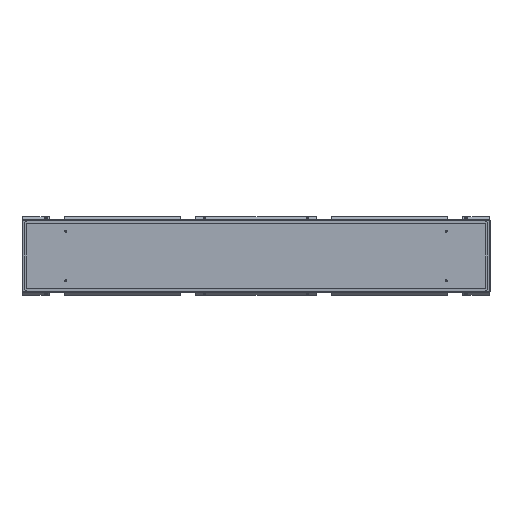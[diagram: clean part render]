
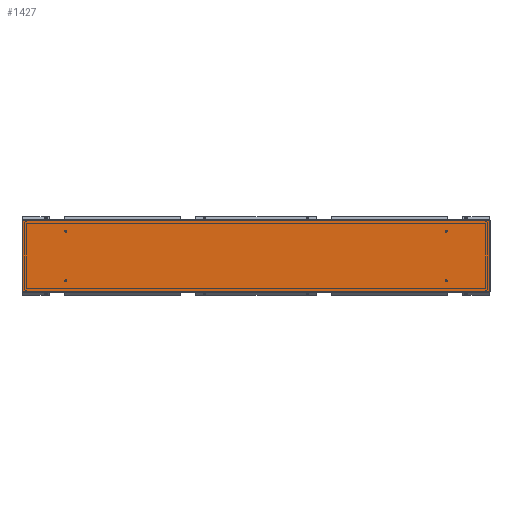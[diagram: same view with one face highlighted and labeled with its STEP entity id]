
A CAD part, left-side view. The second image highlights one B-rep face of the part: STEP entity #1427.
In plain terms, the highlighted planar face has unit normal (-1, 0, 0) as drawn and (0, 0, 1) by its records, which use the part's own axes.
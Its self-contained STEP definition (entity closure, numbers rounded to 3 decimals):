
#436 = LINE ( 'NONE', #6398, #8617 ) ;
#944 = VECTOR ( 'NONE', #8559, 1000. ) ;
#1030 = PLANE ( 'NONE',  #2309 ) ;
#1060 = VECTOR ( 'NONE', #7643, 1000. ) ;
#1074 = ORIENTED_EDGE ( 'NONE', *, *, #7022, .T. ) ;
#1150 = EDGE_CURVE ( 'NONE', #4436, #7677, #1599, .T. ) ;
#1297 = ORIENTED_EDGE ( 'NONE', *, *, #7692, .T. ) ;
#1427 = ADVANCED_FACE ( 'NONE', ( #7038 ), #1030, .F. ) ;
#1599 = LINE ( 'NONE', #3579, #1060 ) ;
#1641 = EDGE_CURVE ( 'NONE', #7677, #7483, #8363, .T. ) ;
#1673 = CARTESIAN_POINT ( 'NONE',  ( -162.75, 1070.5, 0. ) ) ;
#2148 = VECTOR ( 'NONE', #5582, 1000. ) ;
#2175 = CARTESIAN_POINT ( 'NONE',  ( -162.75, 1070.5, 0. ) ) ;
#2309 = AXIS2_PLACEMENT_3D ( 'NONE', #4455, #4405, #8427 ) ;
#2894 = CARTESIAN_POINT ( 'NONE',  ( -162.75, -1070.5, 0. ) ) ;
#3030 = ORIENTED_EDGE ( 'NONE', *, *, #1641, .T. ) ;
#3396 = EDGE_LOOP ( 'NONE', ( #7921, #3030, #1297, #1074 ) ) ;
#3579 = CARTESIAN_POINT ( 'NONE',  ( 162.75, -1070.5, 0. ) ) ;
#4405 = DIRECTION ( 'NONE',  ( 0., 0., -1. ) ) ;
#4436 = VERTEX_POINT ( 'NONE', #6458 ) ;
#4455 = CARTESIAN_POINT ( 'NONE',  ( 0., 0., 0. ) ) ;
#4583 = CARTESIAN_POINT ( 'NONE',  ( -162.75, -1070.5, 0. ) ) ;
#5218 = DIRECTION ( 'NONE',  ( 1., 0., 0. ) ) ;
#5246 = LINE ( 'NONE', #4583, #944 ) ;
#5582 = DIRECTION ( 'NONE',  ( -1., 0., 0. ) ) ;
#5989 = CARTESIAN_POINT ( 'NONE',  ( 162.75, 1070.5, 0. ) ) ;
#6398 = CARTESIAN_POINT ( 'NONE',  ( -162.75, -1070.5, 0. ) ) ;
#6458 = CARTESIAN_POINT ( 'NONE',  ( 162.75, -1070.5, 0. ) ) ;
#7022 = EDGE_CURVE ( 'NONE', #8571, #4436, #436, .T. ) ;
#7038 = FACE_OUTER_BOUND ( 'NONE', #3396, .T. ) ;
#7483 = VERTEX_POINT ( 'NONE', #2175 ) ;
#7643 = DIRECTION ( 'NONE',  ( 0., 1., 0. ) ) ;
#7677 = VERTEX_POINT ( 'NONE', #5989 ) ;
#7692 = EDGE_CURVE ( 'NONE', #7483, #8571, #5246, .T. ) ;
#7921 = ORIENTED_EDGE ( 'NONE', *, *, #1150, .T. ) ;
#8363 = LINE ( 'NONE', #1673, #2148 ) ;
#8427 = DIRECTION ( 'NONE',  ( -1., 0., 0. ) ) ;
#8559 = DIRECTION ( 'NONE',  ( 0., -1., 0. ) ) ;
#8571 = VERTEX_POINT ( 'NONE', #2894 ) ;
#8617 = VECTOR ( 'NONE', #5218, 1000. ) ;
